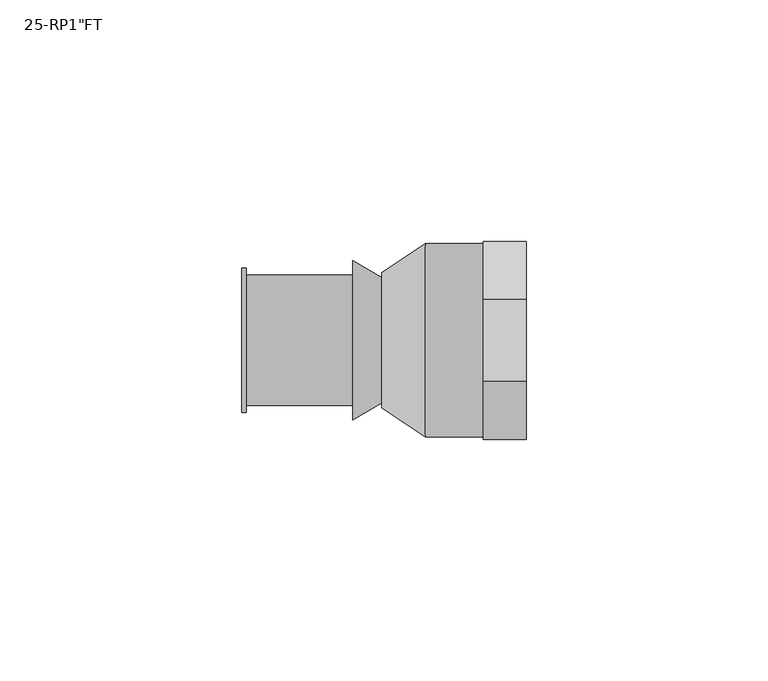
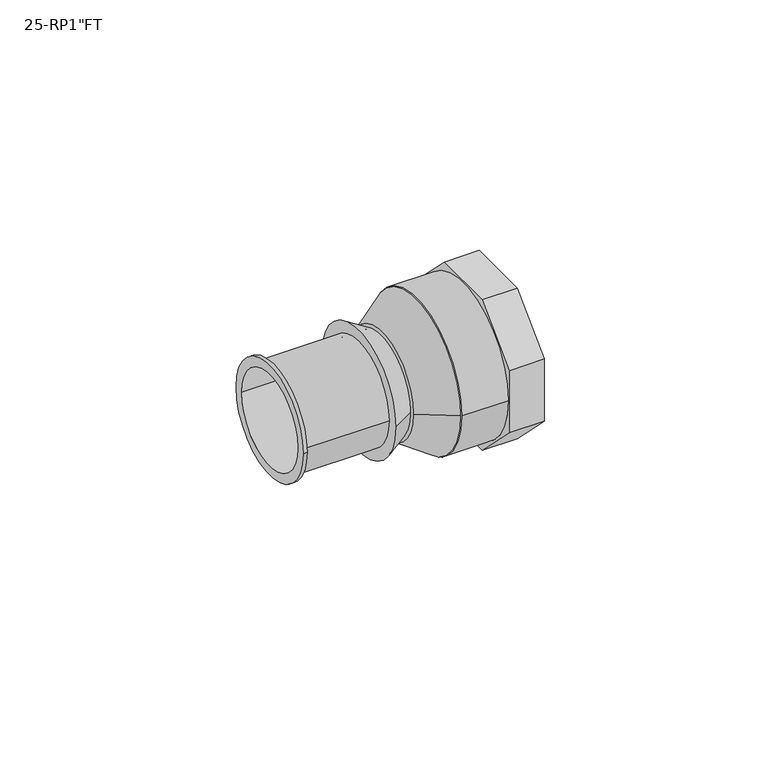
"""IFC4 building model written with IfcOpenShell, lengths in millimetres: pipe fitting geometry."""

from ifc_helpers import new_model, si_unit, frame, origin, place, context, project, spatial, polyline, circle_curve, source, transform, mapped, element, save
from ifc_brep_helpers import plane_surface, cylinder_surface, revolved_surface, advanced_brep


def pipe_fitting_0338804f(model_context):
    return source(origin(), model_context, "Body", "AdvancedBrep", [
        advanced_brep(
        [(15.0, -20.5, 8.491378), (15.0, -8.491378, 20.5), (15.0, 8.491378, 20.5), (15.0, 20.5, 8.491378), (15.0, 20.5, -8.491378), (15.0, 8.491378, -20.5), (15.0, -8.491378, -20.5), (15.0, -20.5, -8.491378), (15.0, 20.0, 0.0), (15.0, -20.0, 0.0), (24.0, -20.5, 8.491378), (24.0, -20.5, -8.491378), (24.0, -8.491378, -20.5), (24.0, 8.491378, -20.5), (24.0, 20.5, -8.491378), (24.0, 20.5, 8.491378), (24.0, 8.491378, 20.5), (24.0, -8.491378, 20.5), (24.0, -15.0, 0.0), (24.0, 15.0, 0.0), (15.0, 15.0, 0.0), (15.0, -15.0, 0.0), (3.0, -20.0, 0.0), (3.0, 20.0, 0.0), (3.0, -15.0, 0.0), (3.0, 15.0, 0.0)],
        [
            (0, 1),
            (1, 2),
            (2, 3),
            (3, 4),
            (4, 5),
            (5, 6),
            (6, 7),
            (7, 0),
            (8, 9, circle_curve(frame((15.0, 0.0, 0.0), z_axis=(1.0, 0.0, 0.0), x_axis=(0.0, 1.0, 0.0)), 20.0)),
            (9, 8, circle_curve(frame((15.0, 0.0, 0.0), z_axis=(1.0, 0.0, 0.0), x_axis=(0.0, 1.0, 0.0)), 20.0)),
            (10, 11),
            (11, 12),
            (12, 13),
            (13, 14),
            (14, 15),
            (15, 16),
            (16, 17),
            (17, 10),
            (18, 19, circle_curve(frame((24.0, 0.0, 0.0), z_axis=(-1.0, 0.0, 0.0), x_axis=(0.0, 1.0, 0.0)), 15.0)),
            (19, 18, circle_curve(frame((24.0, 0.0, 0.0), z_axis=(-1.0, 0.0, 0.0), x_axis=(0.0, 1.0, 0.0)), 15.0)),
            (0, 10),
            (17, 1),
            (16, 2),
            (15, 3),
            (14, 4),
            (13, 5),
            (12, 6),
            (11, 7),
            (19, 20),
            (20, 21, circle_curve(frame((15.0, 0.0, 0.0), z_axis=(-1.0, 0.0, 0.0), x_axis=(0.0, 1.0, 0.0)), 15.0)),
            (21, 18),
            (21, 20, circle_curve(frame((15.0, 0.0, 0.0), z_axis=(-1.0, 0.0, 0.0), x_axis=(0.0, 1.0, 0.0)), 15.0)),
            (22, 23, circle_curve(frame((3.0, 0.0, 0.0), z_axis=(-1.0, 0.0, 0.0), x_axis=(0.0, 1.0, 0.0)), 20.0)),
            (23, 22, circle_curve(frame((3.0, 0.0, 0.0), z_axis=(-1.0, 0.0, 0.0), x_axis=(0.0, 1.0, 0.0)), 20.0)),
            (24, 25, circle_curve(frame((3.0, 0.0, 0.0), z_axis=(1.0, 0.0, 0.0), x_axis=(0.0, 1.0, 0.0)), 15.0)),
            (25, 24, circle_curve(frame((3.0, 0.0, 0.0), z_axis=(1.0, 0.0, 0.0), x_axis=(0.0, 1.0, 0.0)), 15.0)),
            (24, 21),
            (20, 25),
            (22, 9),
            (8, 23),
        ],
        [
            plane_surface(frame((15.0, 0.0, 0.0), z_axis=(-1.0, 0.0, 0.0), x_axis=(0.0, 0.0, 1.0))),
            plane_surface(frame((24.0, 0.0, 0.0), z_axis=(1.0, 0.0, 0.0), x_axis=(0.0, 0.0, 1.0))),
            plane_surface(frame((15.0, -20.5, 8.491378), z_axis=(0.0, -0.7071067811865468, 0.7071067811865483), x_axis=(1.0, 0.0, 0.0))),
            plane_surface(frame((15.0, -8.491378, 20.5), z_axis=(0.0, 0.0, 1.0), x_axis=(1.0, 0.0, 0.0))),
            plane_surface(frame((15.0, 8.491378, 20.5), z_axis=(0.0, 0.7071067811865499, 0.7071067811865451), x_axis=(1.0, 0.0, 0.0))),
            plane_surface(frame((15.0, 20.5, 8.491378), z_axis=(0.0, 1.0, 0.0), x_axis=(1.0, 0.0, 0.0))),
            plane_surface(frame((15.0, 20.5, -8.491378), z_axis=(0.0, 0.7071067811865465, -0.7071067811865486), x_axis=(1.0, 0.0, 0.0))),
            plane_surface(frame((15.0, 8.491378, -20.5), z_axis=(0.0, 0.0, -1.0), x_axis=(1.0, 0.0, 0.0))),
            plane_surface(frame((15.0, -8.491378, -20.5), z_axis=(0.0, -0.7071067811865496, -0.7071067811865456), x_axis=(1.0, 0.0, 0.0))),
            plane_surface(frame((15.0, -20.5, -8.491378), z_axis=(0.0, -1.0, 0.0), x_axis=(1.0, 0.0, 0.0))),
            revolved_surface(polyline([(24.0, 15.0, 0.0), (15.0, 15.0, 0.0)]), (15.0, 0.0, 0.0), (1.0, 0.0, 0.0)),
            plane_surface(frame((3.0, 0.0, 0.0), z_axis=(-1.0, 0.0, 0.0), x_axis=(0.0, 0.0, 1.0))),
            revolved_surface(polyline([(15.0, 15.0, 0.0), (3.0, 15.0, 0.0)]), (3.0, 0.0, 0.0), (1.0, 0.0, 0.0)),
            cylinder_surface(frame((3.0, 0.0, 0.0), z_axis=(-1.0, 0.0, 0.0), x_axis=(0.0, 1.0, 0.0)), 20.0),
        ],
        [
            (0, [[1, 2, 3, 4, 5, 6, 7, 8], [9, 10]]),
            (1, [[11, 12, 13, 14, 15, 16, 17, 18], [19, 20]]),
            (2, [[-1, 21, -18, 22]]),
            (3, [[-2, -22, -17, 23]]),
            (4, [[-3, -23, -16, 24]]),
            (5, [[-4, -24, -15, 25]]),
            (6, [[-5, -25, -14, 26]]),
            (7, [[-6, -26, -13, 27]]),
            (8, [[-7, -27, -12, 28]]),
            (9, [[-8, -28, -11, -21]]),
            (10, [[-20, 29, 30, 31]]),
            (10, [[-19, -31, 32, -29]]),
            (11, [[33, 34], [35, 36]]),
            (12, [[-35, 37, -30, 38]]),
            (12, [[-36, -38, -32, -37]]),
            (13, [[-33, 39, -9, 40]]),
            (13, [[-34, -40, -10, -39]]),
        ],
    ),
        advanced_brep(
        [(3.0, -20.0, 0.0), (3.0, 20.0, 0.0), (-6.0, -14.0, 0.0), (-6.0, 14.0, 0.0)],
        [
            (0, 1, circle_curve(frame((3.0, 0.0, 0.0), z_axis=(1.0, 0.0, 0.0), x_axis=(0.0, -1.0, 0.0)), 20.0)),
            (1, 0, circle_curve(frame((3.0, 0.0, 0.0), z_axis=(1.0, 0.0, 0.0), x_axis=(0.0, 1.0, 0.0)), 20.0)),
            (2, 3, circle_curve(frame((-6.0, 0.0, 0.0), z_axis=(-1.0, 0.0, 0.0), x_axis=(0.0, 1.0, 0.0)), 14.0)),
            (3, 2, circle_curve(frame((-6.0, 0.0, 0.0), z_axis=(-1.0, 0.0, 0.0), x_axis=(0.0, -1.0, 0.0)), 14.0)),
            (3, 1),
            (0, 2),
        ],
        [
            plane_surface(frame((3.0, 0.0, 0.0), z_axis=(1.0, 0.0, 0.0), x_axis=(0.0, 0.0, -1.0))),
            plane_surface(frame((-6.0, 0.0, 0.0), z_axis=(-1.0, 0.0, 0.0), x_axis=(0.0, 0.0, -1.0))),
            revolved_surface(polyline([(-6.0, 14.0, 0.0), (3.0, 20.0, 0.0)]), (-27.0, 0.0, 0.0), (1.0, 0.0, 0.0)),
            revolved_surface(polyline([(-6.0, -14.0, 0.0), (3.0, -20.0, 0.0)]), (-27.0, 0.0, 0.0), (1.0, 0.0, 0.0)),
        ],
        [
            (0, [[1, 2]]),
            (1, [[3, 4]]),
            (2, [[-4, 5, -1, 6]]),
            (3, [[-3, -6, -2, -5]]),
        ],
    ),
        advanced_brep(
        [(-35.0, -15.0, 0.0), (-35.0, 15.0, 0.0), (-35.0, -12.5, 0.0), (-35.0, 12.5, 0.0), (-12.0, -13.5, 0.0), (-12.0, 13.5, 0.0), (-12.0, -12.5, 0.0), (-12.0, 12.5, 0.0), (-34.0, 13.5, 0.0), (-34.0, -13.5, 0.0), (-34.0, -15.0, 0.0), (-34.0, 15.0, 0.0)],
        [
            (0, 1, circle_curve(frame((-35.0, 0.0, 0.0), z_axis=(-1.0, 0.0, 0.0), x_axis=(0.0, 1.0, 0.0)), 15.0)),
            (1, 0, circle_curve(frame((-35.0, 0.0, 0.0), z_axis=(-1.0, 0.0, 0.0), x_axis=(0.0, 1.0, 0.0)), 15.0)),
            (2, 3, circle_curve(frame((-35.0, 0.0, 0.0), z_axis=(1.0, 0.0, 0.0), x_axis=(0.0, 1.0, 0.0)), 12.5)),
            (3, 2, circle_curve(frame((-35.0, 0.0, 0.0), z_axis=(1.0, 0.0, 0.0), x_axis=(0.0, 1.0, 0.0)), 12.5)),
            (4, 5, circle_curve(frame((-12.0, 0.0, 0.0), z_axis=(1.0, 0.0, 0.0), x_axis=(0.0, 1.0, 0.0)), 13.5)),
            (5, 4, circle_curve(frame((-12.0, 0.0, 0.0), z_axis=(1.0, 0.0, 0.0), x_axis=(0.0, 1.0, 0.0)), 13.5)),
            (6, 7, circle_curve(frame((-12.0, 0.0, 0.0), z_axis=(-1.0, 0.0, 0.0), x_axis=(0.0, 1.0, 0.0)), 12.5)),
            (7, 6, circle_curve(frame((-12.0, 0.0, 0.0), z_axis=(-1.0, 0.0, 0.0), x_axis=(0.0, 1.0, 0.0)), 12.5)),
            (2, 6),
            (7, 3),
            (5, 8),
            (8, 9, circle_curve(frame((-34.0, 0.0, 0.0), z_axis=(1.0, 0.0, 0.0), x_axis=(0.0, 1.0, 0.0)), 13.5)),
            (9, 4),
            (9, 8, circle_curve(frame((-34.0, 0.0, 0.0), z_axis=(1.0, 0.0, 0.0), x_axis=(0.0, 1.0, 0.0)), 13.5)),
            (10, 11, circle_curve(frame((-34.0, 0.0, 0.0), z_axis=(1.0, 0.0, 0.0), x_axis=(0.0, 1.0, 0.0)), 15.0)),
            (11, 10, circle_curve(frame((-34.0, 0.0, 0.0), z_axis=(1.0, 0.0, 0.0), x_axis=(0.0, 1.0, 0.0)), 15.0)),
            (0, 10),
            (11, 1),
        ],
        [
            plane_surface(frame((-35.0, 0.0, 0.0), z_axis=(-1.0, 0.0, 0.0), x_axis=(0.0, 0.0, 1.0))),
            plane_surface(frame((-12.0, 0.0, 0.0), z_axis=(1.0, 0.0, 0.0), x_axis=(0.0, 0.0, 1.0))),
            revolved_surface(polyline([(-12.0, 12.5, 0.0), (-35.0, 12.5, 0.0)]), (-35.0, 0.0, 0.0), (1.0, 0.0, 0.0)),
            cylinder_surface(frame((-35.0, 0.0, 0.0), z_axis=(-1.0, 0.0, 0.0), x_axis=(0.0, 1.0, 0.0)), 13.5),
            plane_surface(frame((-34.0, 0.0, 0.0), z_axis=(1.0, 0.0, 0.0), x_axis=(0.0, 0.0, 1.0))),
            cylinder_surface(frame((-35.0, 0.0, 0.0), z_axis=(-1.0, 0.0, 0.0), x_axis=(0.0, 1.0, 0.0)), 15.0),
        ],
        [
            (0, [[1, 2], [3, 4]]),
            (1, [[5, 6], [7, 8]]),
            (2, [[-3, 9, -8, 10]]),
            (2, [[-4, -10, -7, -9]]),
            (3, [[-6, 11, 12, 13]]),
            (3, [[-5, -13, 14, -11]]),
            (4, [[15, 16], [-12, -14]]),
            (5, [[-1, 17, -16, 18]]),
            (5, [[-2, -18, -15, -17]]),
        ],
    ),
        advanced_brep(
        [(-6.0, -13.0, 0.0), (-6.0, 13.0, 0.0), (-6.0, 12.5, 0.0), (-6.0, -12.5, 0.0), (-12.0, -16.5, 0.0), (-12.0, 16.5, 0.0), (-12.0, -12.5, 0.0), (-12.0, 12.5, 0.0)],
        [
            (0, 1, circle_curve(frame((-6.0, 0.0, 0.0), z_axis=(1.0, 0.0, 0.0), x_axis=(0.0, -1.0, 0.0)), 13.0)),
            (1, 0, circle_curve(frame((-6.0, 0.0, 0.0), z_axis=(1.0, 0.0, 0.0), x_axis=(0.0, 1.0, 0.0)), 13.0)),
            (2, 3, circle_curve(frame((-6.0, 0.0, 0.0), z_axis=(-1.0, 0.0, 0.0), x_axis=(0.0, 1.0, 0.0)), 12.5)),
            (3, 2, circle_curve(frame((-6.0, 0.0, 0.0), z_axis=(-1.0, 0.0, 0.0), x_axis=(0.0, 1.0, 0.0)), 12.5)),
            (4, 5, circle_curve(frame((-12.0, 0.0, 0.0), z_axis=(-1.0, 0.0, 0.0), x_axis=(0.0, 1.0, 0.0)), 16.5)),
            (5, 4, circle_curve(frame((-12.0, 0.0, 0.0), z_axis=(-1.0, 0.0, 0.0), x_axis=(0.0, -1.0, 0.0)), 16.5)),
            (6, 7, circle_curve(frame((-12.0, 0.0, 0.0), z_axis=(1.0, 0.0, 0.0), x_axis=(0.0, 1.0, 0.0)), 12.5)),
            (7, 6, circle_curve(frame((-12.0, 0.0, 0.0), z_axis=(1.0, 0.0, 0.0), x_axis=(0.0, 1.0, 0.0)), 12.5)),
            (0, 4),
            (5, 1),
            (2, 7),
            (6, 3),
        ],
        [
            plane_surface(frame((-6.0, 0.0, 0.0), z_axis=(1.0, 0.0, 0.0), x_axis=(0.0, 0.0, -1.0))),
            plane_surface(frame((-12.0, 0.0, 0.0), z_axis=(-1.0, 0.0, 0.0), x_axis=(0.0, 0.0, -1.0))),
            revolved_surface(polyline([(-6.0, -13.000000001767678, 0.0), (-12.0, -16.5, 0.0)]), (16.2857143, 0.0, 0.0), (-1.0, 0.0, 0.0)),
            revolved_surface(polyline([(-6.0, 13.000000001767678, 0.0), (-12.0, 16.5, 0.0)]), (16.2857143, 0.0, 0.0), (-1.0, 0.0, 0.0)),
            revolved_surface(polyline([(-6.0, 12.5, 0.0), (-12.0, 12.5, 0.0)]), (-12.0, 0.0, 0.0), (1.0, 0.0, 0.0)),
        ],
        [
            (0, [[1, 2], [3, 4]]),
            (1, [[5, 6], [7, 8]]),
            (2, [[-1, 9, -6, 10]]),
            (3, [[-2, -10, -5, -9]]),
            (4, [[11, -7, 12, -3]]),
            (4, [[-11, -4, -12, -8]]),
        ],
    ),
    ])


if __name__ == "__main__":
    model = new_model("IFC4")
    model_context = context("Model", 3, world=origin())
    ifc_project = project(units=[si_unit("LENGTHUNIT", "METRE", prefix="MILLI")], contexts=[model_context])
    site = spatial("IfcSite", under=ifc_project)
    building = spatial("IfcBuilding", under=site)
    placement = place(None, origin())
    pipe_fitting_shape = pipe_fitting_0338804f(model_context)
    element("IfcPipeFitting", 1, ObjectType="SuperPipe_AdapterFT_MAX_RP : 25-RP1\"FT", at=placement, inside=building, context=model_context, shape_type="MappedRepresentation", body=[
        mapped(pipe_fitting_shape, transform((0.0, 0.0, 0.0), x_axis=(1.0, 0.0, 0.0), y_axis=(0.0, 1.0, 0.0), z_axis=(0.0, 0.0, 1.0))),
    ])
    save(model, "model.ifc")
